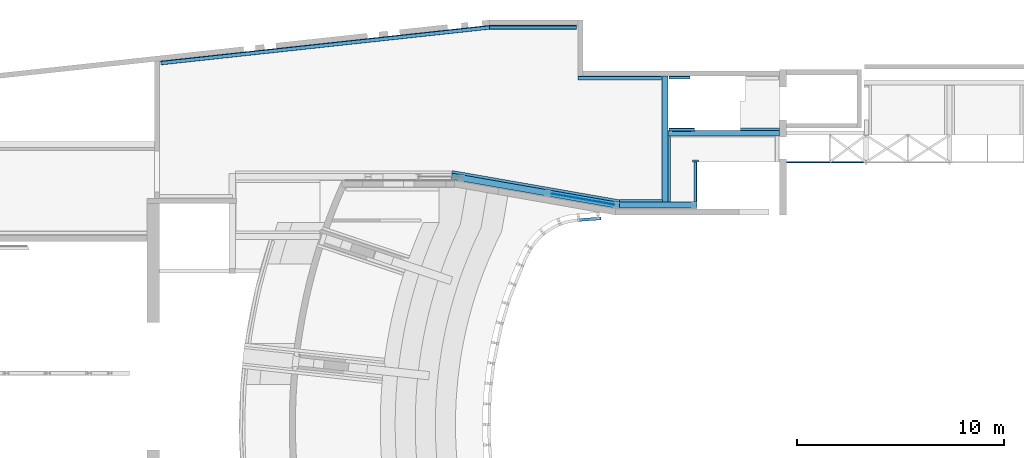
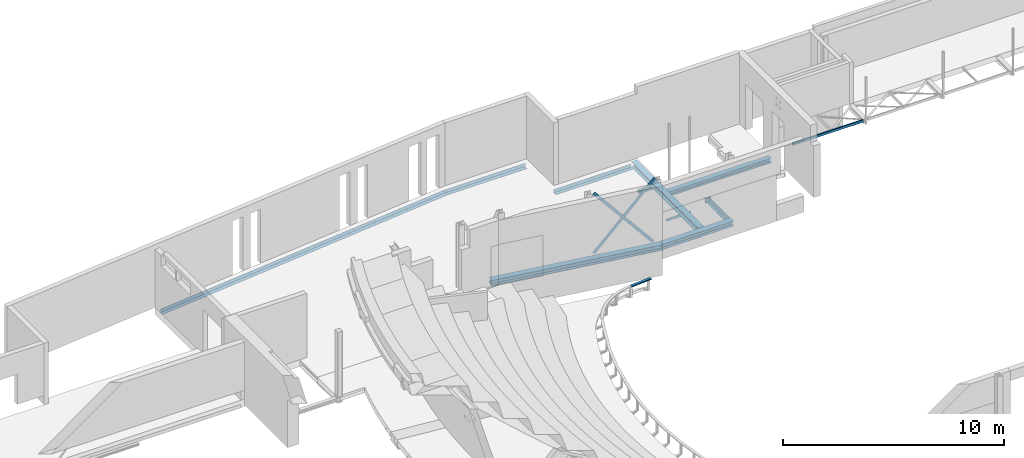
# One storey, part 27 of 68: 14 beams.
"""IFC2X3 building model written with IfcOpenShell, lengths in millimetres."""

from ifc_helpers import new_model, entity, si_unit, converted_unit, derived_unit, direction, frame, frame_2d, origin, origin_2d_with_axis, place, context, subcontext, project, spatial, polyline, circle_curve, parameter, trimmed, segment, composite_curve, rectangle, i_section, outline, extrude, source, transform, mapped, material, material_list, type_object, type_shapes, element, save


model = new_model("IFC2X3")

# Units and contexts
model_context = context("Model", 3, precision=0.01, world=origin(), true_north=direction((6.12303176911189e-17, 1.0)))
body_context = subcontext(model_context, "Body", "Model", "MODEL_VIEW")
ifc_project = project(units=[si_unit("LENGTHUNIT", "METRE", prefix="MILLI"), si_unit("AREAUNIT", "SQUARE_METRE", prefix="MILLI"), si_unit("VOLUMEUNIT", "CUBIC_METRE"), converted_unit("PLANEANGLEUNIT", "DEGREE", entity("IfcRatioMeasure", 0.0174532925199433), si_unit("PLANEANGLEUNIT", "RADIAN"), dimensions=[0, 0, 0, 0, 0, 0, 0]), si_unit("MASSUNIT", "GRAM", prefix="KILO"), derived_unit("MASSDENSITYUNIT", [(si_unit("MASSUNIT", "GRAM", prefix="KILO"), 1), (si_unit("LENGTHUNIT", "METRE"), -3)]), derived_unit("MOMENTOFINERTIAUNIT", [(si_unit("LENGTHUNIT", "METRE"), 4)]), si_unit("TIMEUNIT", "SECOND"), si_unit("FREQUENCYUNIT", "HERTZ"), si_unit("THERMODYNAMICTEMPERATUREUNIT", "DEGREE_CELSIUS"), derived_unit("THERMALTRANSMITTANCEUNIT", [(si_unit("MASSUNIT", "GRAM", prefix="KILO"), 1), (si_unit("THERMODYNAMICTEMPERATUREUNIT", "KELVIN"), -1), (si_unit("TIMEUNIT", "SECOND"), -3)]), derived_unit("VOLUMETRICFLOWRATEUNIT", [(si_unit("LENGTHUNIT", "METRE"), 3), (si_unit("TIMEUNIT", "SECOND"), -1)]), si_unit("ELECTRICCURRENTUNIT", "AMPERE"), si_unit("ELECTRICVOLTAGEUNIT", "VOLT"), si_unit("POWERUNIT", "WATT"), si_unit("FORCEUNIT", "NEWTON", prefix="KILO"), si_unit("ILLUMINANCEUNIT", "LUX"), si_unit("LUMINOUSFLUXUNIT", "LUMEN"), si_unit("LUMINOUSINTENSITYUNIT", "CANDELA"), derived_unit("USERDEFINED", [(si_unit("MASSUNIT", "GRAM", prefix="KILO"), -1), (si_unit("LENGTHUNIT", "METRE"), -2), (si_unit("TIMEUNIT", "SECOND"), 3), (si_unit("LUMINOUSFLUXUNIT", "LUMEN"), 1)]), derived_unit("LINEARVELOCITYUNIT", [(si_unit("LENGTHUNIT", "METRE"), 1), (si_unit("TIMEUNIT", "SECOND"), -1)]), si_unit("PRESSUREUNIT", "PASCAL"), derived_unit("USERDEFINED", [(si_unit("LENGTHUNIT", "METRE"), -2), (si_unit("MASSUNIT", "GRAM", prefix="KILO"), 1), (si_unit("TIMEUNIT", "SECOND"), -2)]), derived_unit("LINEARFORCEUNIT", [(si_unit("MASSUNIT", "GRAM", prefix="KILO"), 1), (si_unit("LENGTHUNIT", "METRE"), 1), (si_unit("TIMEUNIT", "SECOND"), -2), (si_unit("LENGTHUNIT", "METRE"), -1)]), derived_unit("PLANARFORCEUNIT", [(si_unit("MASSUNIT", "GRAM", prefix="KILO"), 1), (si_unit("LENGTHUNIT", "METRE"), 1), (si_unit("TIMEUNIT", "SECOND"), -2), (si_unit("LENGTHUNIT", "METRE"), -2)])], contexts=[model_context])

# Site, building, storey
site_placement = place(None, origin())
site = spatial("IfcSite", under=ifc_project, at=site_placement, Name="Theater aan de Parade", CompositionType="ELEMENT")
building_placement = place(site_placement, origin())
building = spatial("IfcBuilding", under=site, at=building_placement, Name="Theater aan de Parade", CompositionType="ELEMENT")
storey_placement = place(building_placement, frame((0.0, 0.0, 8750.0)))
storey = spatial("IfcBuildingStorey", under=building, at=storey_placement, Name="02 tweede verdieping", CompositionType="ELEMENT", Elevation=8750.0)

# Beams
ifc_material_1 = material(Name="00_PBT_MAT_staal_S355")
ifc_material_2 = material(Name="00_PBT_MAT_Lucht")
ifc_material_list_1 = material_list([ifc_material_1, ifc_material_2])
beam_type_1 = type_object("IfcBeamType", Name="28_PBT_SF_staal_H-profiel_met_ondergelaste_strip (void):S355_HE300B + ondergelaste strip d=15", PredefinedType="BEAM", material=ifc_material_list_1)
shared_shape_1 = source(origin(), body_context, "Body", "SweptSolid", [
    extrude(rectangle(XDim=15.0, YDim=420.0, at=origin_2d_with_axis()), frame((-4112.59046725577, 65.0, -157.500000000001), z_axis=(1.0, 0.0, 0.0), x_axis=(0.0, 0.0, -1.0)), (0.0, 0.0, 1.0), 8225.18093451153),
    extrude(outline(composite_curve([segment(polyline([(131.0, -150.0), (150.0, -150.0)]), True, "CONTINUOUS"), segment(polyline([(150.0, -150.0), (150.0, 150.0)]), True, "CONTINUOUS"), segment(polyline([(150.0, 150.0), (131.0, 150.0)]), True, "CONTINUOUS"), segment(polyline([(131.0, 150.0), (131.0, 32.5)]), True, "CONTINUOUS"), segment(trimmed(circle_curve(frame_2d((104.0, 32.5), x_axis=(1.0, 0.0)), 27.0000000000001), [parameter(270.0)], [parameter(0.0)], True, "PARAMETER"), False, "CONTINUOUS"), segment(polyline([(104.0, 5.49999999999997), (-104.0, 5.49999999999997)]), True, "CONTINUOUS"), segment(trimmed(circle_curve(frame_2d((-104.0, 32.5), x_axis=(0.0, -1.0)), 27.0), [parameter(270.0)], [parameter(0.0)], True, "PARAMETER"), False, "CONTINUOUS"), segment(polyline([(-131.0, 32.5), (-131.0, 150.0)]), True, "CONTINUOUS"), segment(polyline([(-131.0, 150.0), (-150.0, 150.0)]), True, "CONTINUOUS"), segment(polyline([(-150.0, 150.0), (-150.0, -150.0)]), True, "CONTINUOUS"), segment(polyline([(-150.0, -150.0), (-131.0, -150.0)]), True, "CONTINUOUS"), segment(polyline([(-131.0, -150.0), (-131.0, -32.5)]), True, "CONTINUOUS"), segment(trimmed(circle_curve(frame_2d((-104.0, -32.5), x_axis=(-1.0, 0.0)), 27.0), [parameter(269.999999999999)], [parameter(0.0)], True, "PARAMETER"), False, "CONTINUOUS"), segment(polyline([(-104.0, -5.50000000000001), (104.0, -5.50000000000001)]), True, "CONTINUOUS"), segment(trimmed(circle_curve(frame_2d((104.0, -32.5), x_axis=(0.0, 1.0)), 27.0), [parameter(270.0)], [parameter(0.0)], True, "PARAMETER"), False, "CONTINUOUS"), segment(polyline([(131.0, -32.5), (131.0, -150.0)]), True, "CONTINUOUS")], self_intersect=False)), frame((-4113.59046725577, 0.0, 0.0), z_axis=(1.0, 0.0, 0.0), x_axis=(0.0, 0.0, -1.0)), (0.0, 0.0, 1.0), 8227.18093451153),
])
type_shapes(beam_type_1, [shared_shape_1])
beam_1_placement = place(storey_placement, frame((55596.7451545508, 43715.1901551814, -315.0), z_axis=(0.0, 0.0, 1.0), x_axis=(0.985030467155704, -0.172380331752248, 0.0)))
element("IfcBeam", 1, at=beam_1_placement, inside=storey, type_object=beam_type_1, material=ifc_material_1, Name="28_PBT_SF_staal_H-profiel_met_ondergelaste_strip (void):S355_HE300B + ondergelaste strip d=15", ObjectType="28_PBT_SF_staal_H-profiel_met_ondergelaste_strip (void):S355_HE300B + ondergelaste strip d=15", context=body_context, shape_type="MappedRepresentation", body=[
    mapped(shared_shape_1, transform((0.0, 0.0, 0.0), scale=1.0)),
])
beam_type_2 = type_object("IfcBeamType", Name="28_PBT_SF_staal_L-profiel:S355_L150x150x15", PredefinedType="NOTDEFINED")
beam_2_placement = place(storey_placement, frame((62023.8822563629, 46634.3631171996, 0.0)))
element("IfcBeam", 2, at=beam_2_placement, inside=storey, type_object=beam_type_2, material=ifc_material_1, Name="28_PBT_SF_staal_L-profiel:S355_L150x150x15", ObjectType="28_PBT_SF_staal_L-profiel:S355_L150x150x15", context=body_context, shape_type="SweptSolid", body=[
    extrude(outline(composite_curve([segment(polyline([(-93.3333333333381, -56.6666666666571), (56.6666666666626, -56.6666666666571)]), True, "CONTINUOUS"), segment(polyline([(56.6666666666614, -56.6666666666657), (56.6666666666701, 93.3333333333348)]), True, "CONTINUOUS"), segment(polyline([(56.6666666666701, 93.3333333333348), (49.6666666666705, 93.3333333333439)]), True, "CONTINUOUS"), segment(trimmed(circle_curve(frame_2d((49.6666666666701, 85.3333333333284), x_axis=(0.0, 1.0)), 7.99999999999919), [parameter(0.0)], [parameter(90.0000000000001)], True, "PARAMETER"), True, "CONTINUOUS"), segment(polyline([(41.6666666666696, 85.3333333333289), (41.6666666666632, -25.6666666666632)]), True, "CONTINUOUS"), segment(trimmed(circle_curve(frame_2d((25.6666666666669, -25.666666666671), x_axis=(1.0, 0.0)), 15.9999999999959), [parameter(269.999999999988)], [parameter(0.0)], True, "PARAMETER"), False, "CONTINUOUS"), segment(polyline([(25.6666666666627, -41.6666666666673), (-85.3333333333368, -41.6666666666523)]), True, "CONTINUOUS"), segment(trimmed(circle_curve(frame_2d((-85.3333333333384, -49.6666666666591), x_axis=(0.0, 1.0)), 7.99999999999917), [parameter(0.0)], [parameter(90.0000000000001)], True, "PARAMETER"), True, "CONTINUOUS"), segment(polyline([(-93.3333333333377, -49.6666666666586), (-93.3333333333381, -56.6666666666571)]), True, "CONTINUOUS")], self_intersect=False)), frame((0.0, 14.1666666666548, -1919.33333333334), z_axis=(1.0, 0.0, 0.0), x_axis=(0.0, 0.0, -1.0)), (0.0, 0.0, 1.0), 1239.98964556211),
])
beam_3_placement = place(storey_placement, frame((62023.8822563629, 49219.4979908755, 0.0)))
element("IfcBeam", 3, at=beam_3_placement, inside=storey, type_object=beam_type_2, material=ifc_material_1, Name="28_PBT_SF_staal_L-profiel:S355_L150x150x15", ObjectType="28_PBT_SF_staal_L-profiel:S355_L150x150x15", context=body_context, shape_type="SweptSolid", body=[
    extrude(outline(composite_curve([segment(polyline([(49.6666666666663, -93.3333333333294), (56.6666666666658, -93.3333333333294)]), True, "CONTINUOUS"), segment(polyline([(56.6666666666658, -93.3333333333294), (56.6666666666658, 56.6666666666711)]), True, "CONTINUOUS"), segment(polyline([(56.666666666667, 56.6666666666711), (-93.3333333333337, 56.6666666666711)]), True, "CONTINUOUS"), segment(polyline([(-93.3333333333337, 56.6666666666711), (-93.3333333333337, 49.6666666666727)]), True, "CONTINUOUS"), segment(trimmed(circle_curve(frame_2d((-85.3333333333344, 49.6666666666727), x_axis=(-1.0, 0.0)), 7.99999999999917), [parameter(0.0)], [parameter(90.0000000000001)], True, "PARAMETER"), True, "CONTINUOUS"), segment(polyline([(-85.3333333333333, 41.6666666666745), (25.6666666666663, 41.6666666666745)]), True, "CONTINUOUS"), segment(trimmed(circle_curve(frame_2d((25.6666666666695, 25.6666666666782), x_axis=(0.0, 1.0)), 15.9999999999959), [parameter(269.999999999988)], [parameter(0.0)], True, "PARAMETER"), False, "CONTINUOUS"), segment(polyline([(41.6666666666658, 25.6666666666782), (41.6666666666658, -85.3333333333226)]), True, "CONTINUOUS"), segment(trimmed(circle_curve(frame_2d((49.6666666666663, -85.3333333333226), x_axis=(-1.0, 0.0)), 7.99999999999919), [parameter(0.0)], [parameter(90.0000000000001)], True, "PARAMETER"), True, "CONTINUOUS")], self_intersect=False)), frame((0.0, -14.1666666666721, -1919.33333333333), z_axis=(1.0, 0.0, 0.0), x_axis=(0.0, 0.0, -1.0)), (0.0, 0.0, 1.0), 1019.99734582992),
])
ifc_material_list_2 = material_list([ifc_material_1, ifc_material_2])
beam_type_3 = type_object("IfcBeamType", Name="28_PBT_SF_staal_H-profiel_met_ondergelaste_strip (void):S355_HE300B + ondergelaste strip d=12", PredefinedType="BEAM", material=ifc_material_list_2)
shared_shape_2 = source(origin(), body_context, "Body", "SweptSolid", [
    extrude(i_section(OverallWidth=300.000000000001, OverallDepth=300.0, WebThickness=10.9999999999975, FlangeThickness=19.0, FilletRadius=27.0000000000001, at=frame_2d((8.65441052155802e-12, -5.40012479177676e-13), x_axis=(1.0, 0.0))), frame((61833.8822563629, 49261.9979908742, 8435.0), z_axis=(0.0, -1.0, 0.0), x_axis=(-1.0, 0.0, 0.0)), (0.0, 0.0, 1.0), 6076.9979908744),
    extrude(rectangle(XDim=11.9999999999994, YDim=420.0, at=frame_2d((-4.33431068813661e-12, 5.41344746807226e-13), x_axis=(0.0, 1.0))), frame((61898.8822563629, 46336.9979908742, 8279.0), z_axis=(0.0, -1.0, 0.0), x_axis=(-1.0, 0.0, 0.0)), (0.0, 0.0, 1.0), 3150.9979908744),
])
type_shapes(beam_type_3, [shared_shape_2])
beam_4_placement = place(storey_placement, frame((0.0, 0.0, -8750.0)))
element("IfcBeam", 4, at=beam_4_placement, inside=storey, type_object=beam_type_3, material=ifc_material_1, Name="28_PBT_SF_staal_H-profiel_met_ondergelaste_strip (void):S355_HE300B + ondergelaste strip d=12", ObjectType="28_PBT_SF_staal_H-profiel_met_ondergelaste_strip (void):S355_HE300B + ondergelaste strip d=12", context=body_context, shape_type="MappedRepresentation", body=[
    mapped(shared_shape_2, transform((0.0, 0.0, 0.0), scale=1.0)),
])
ifc_material_list_3 = material_list([ifc_material_1, ifc_material_2])
beam_type_4 = type_object("IfcBeamType", Name="28_PBT_SF_staal_H-profiel_met_ondergelaste_strip (void):S355_HE260A + ondergelaste strip d=12", PredefinedType="BEAM", material=ifc_material_list_3)
shared_shape_3 = source(origin(), body_context, "Body", "SweptSolid", [
    extrude(outline(composite_curve([segment(polyline([(112.50000000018, -130.0), (125.0, -130.0)]), True, "CONTINUOUS"), segment(polyline([(125.0, -130.0), (125.0, 130.0)]), True, "CONTINUOUS"), segment(polyline([(125.0, 130.0), (112.499999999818, 130.0)]), True, "CONTINUOUS"), segment(polyline([(112.499999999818, 130.0), (112.49999999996, 27.7500000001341)]), True, "CONTINUOUS"), segment(trimmed(circle_curve(frame_2d((88.4999999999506, 27.7500000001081), x_axis=(1.0, 0.0)), 24.0000000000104), [parameter(270.000000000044)], [parameter(0.0)], True, "PARAMETER"), False, "CONTINUOUS"), segment(polyline([(88.499999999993, 3.75000000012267), (-88.500000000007, 3.7499999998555)]), True, "CONTINUOUS"), segment(trimmed(circle_curve(frame_2d((-88.5000000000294, 27.7499999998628), x_axis=(0.0, -1.0)), 24.00000000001), [parameter(270.000000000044)], [parameter(0.0)], True, "PARAMETER"), False, "CONTINUOUS"), segment(polyline([(-112.50000000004, 27.7499999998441), (-112.500000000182, 130.0)]), True, "CONTINUOUS"), segment(polyline([(-112.500000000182, 130.0), (-125.0, 130.0)]), True, "CONTINUOUS"), segment(polyline([(-125.0, 130.0), (-125.0, -130.0)]), True, "CONTINUOUS"), segment(polyline([(-125.0, -130.0), (-112.49999999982, -130.0)]), True, "CONTINUOUS"), segment(polyline([(-112.49999999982, -130.0), (-112.499999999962, -27.7500000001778)]), True, "CONTINUOUS"), segment(trimmed(circle_curve(frame_2d((-88.4999999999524, -27.7500000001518), x_axis=(-1.0, 0.0)), 24.0000000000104), [parameter(270.000000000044)], [parameter(0.0)], True, "PARAMETER"), False, "CONTINUOUS"), segment(polyline([(-88.4999999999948, -3.75000000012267), (88.5000000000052, -3.74999999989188)]), True, "CONTINUOUS"), segment(trimmed(circle_curve(frame_2d((88.5000000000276, -27.7499999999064), x_axis=(0.0, 1.0)), 24.00000000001), [parameter(270.000000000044)], [parameter(0.0)], True, "PARAMETER"), False, "CONTINUOUS"), segment(polyline([(112.500000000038, -27.7499999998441), (112.50000000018, -130.0)]), True, "CONTINUOUS")], self_intersect=False)), frame((61983.8822563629, 46496.8631171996, 8415.0), z_axis=(1.0, 0.0, 0.0), x_axis=(0.0, 0.0, -1.0)), (0.0, 0.0, 1.0), 5372.37384459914),
    extrude(rectangle(XDim=12.0000000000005, YDim=380.0, at=frame_2d((-1.08268949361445e-12, -8.65441052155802e-12), x_axis=(1.0, 0.0))), frame((65486.8822563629, 46561.8631171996, 8284.0), z_axis=(1.0, 0.0, 0.0), x_axis=(0.0, 0.0, -1.0)), (0.0, 0.0, 1.0), 1868.37384459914),
])
type_shapes(beam_type_4, [shared_shape_3])
beam_5_placement = place(storey_placement, frame((0.0, 0.0, -8750.0)))
element("IfcBeam", 5, at=beam_5_placement, inside=storey, type_object=beam_type_4, material=ifc_material_1, Name="28_PBT_SF_staal_H-profiel_met_ondergelaste_strip (void):S355_HE260A + ondergelaste strip d=12", ObjectType="28_PBT_SF_staal_H-profiel_met_ondergelaste_strip (void):S355_HE260A + ondergelaste strip d=12", context=body_context, shape_type="MappedRepresentation", body=[
    mapped(shared_shape_3, transform((0.0, 0.0, 0.0), scale=1.0)),
])
ifc_material_list_4 = material_list([ifc_material_1, ifc_material_2])
beam_type_5 = type_object("IfcBeamType", Name="28_PBT_SF_staal_H-profiel_met_ondergelaste_strip (void):S355_HE300A + ondergelaste strip d=12", PredefinedType="BEAM", material=ifc_material_list_4)
shared_shape_4 = source(origin(), body_context, "Body", "SweptSolid", [
    extrude(rectangle(XDim=10.0, YDim=420.0, at=origin_2d_with_axis()), frame((-1862.88408459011, 65.0, -150.0), z_axis=(1.0, 0.0, 0.0), x_axis=(0.0, 0.0, -1.0)), (0.0, 0.0, 1.0), 2050.76816918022),
    extrude(outline(composite_curve([segment(polyline([(131.0, -150.0), (145.0, -150.0)]), True, "CONTINUOUS"), segment(polyline([(145.0, -150.0), (145.0, 150.0)]), True, "CONTINUOUS"), segment(polyline([(145.0, 150.0), (131.0, 150.0)]), True, "CONTINUOUS"), segment(polyline([(131.0, 150.0), (131.0, 31.25)]), True, "CONTINUOUS"), segment(trimmed(circle_curve(frame_2d((104.0, 31.25), x_axis=(1.0, 0.0)), 27.0), [parameter(270.0)], [parameter(0.0)], True, "PARAMETER"), False, "CONTINUOUS"), segment(polyline([(104.0, 4.24999999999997), (-104.0, 4.24999999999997)]), True, "CONTINUOUS"), segment(trimmed(circle_curve(frame_2d((-104.0, 31.25), x_axis=(0.0, -1.0)), 27.0000000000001), [parameter(270.0)], [parameter(0.0)], True, "PARAMETER"), False, "CONTINUOUS"), segment(polyline([(-131.0, 31.25), (-131.0, 150.0)]), True, "CONTINUOUS"), segment(polyline([(-131.0, 150.0), (-145.0, 150.0)]), True, "CONTINUOUS"), segment(polyline([(-145.0, 150.0), (-145.0, -150.0)]), True, "CONTINUOUS"), segment(polyline([(-145.0, -150.0), (-131.0, -150.0)]), True, "CONTINUOUS"), segment(polyline([(-131.0, -150.0), (-131.0, -31.25)]), True, "CONTINUOUS"), segment(trimmed(circle_curve(frame_2d((-104.0, -31.25), x_axis=(-1.0, 0.0)), 27.0), [parameter(270.0)], [parameter(0.0)], True, "PARAMETER"), False, "CONTINUOUS"), segment(polyline([(-104.0, -4.25000000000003), (104.0, -4.25000000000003)]), True, "CONTINUOUS"), segment(trimmed(circle_curve(frame_2d((104.0, -31.25), x_axis=(0.0, 1.0)), 27.0), [parameter(270.0)], [parameter(0.0)], True, "PARAMETER"), False, "CONTINUOUS"), segment(polyline([(131.0, -31.25), (131.0, -150.0)]), True, "CONTINUOUS")], self_intersect=False)), frame((-1863.88408459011, 0.0, 0.0), z_axis=(1.0, 0.0, 0.0), x_axis=(0.0, 0.0, -1.0)), (0.0, 0.0, 1.0), 3727.76816918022),
])
type_shapes(beam_type_5, [shared_shape_4])
beam_6_placement = place(storey_placement, frame((61517.7007672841, 43035.0, -320.0)))
element("IfcBeam", 6, at=beam_6_placement, inside=storey, type_object=beam_type_5, material=ifc_material_1, Name="28_PBT_SF_staal_H-profiel_met_ondergelaste_strip (void):S355_HE300A + ondergelaste strip d=12", ObjectType="28_PBT_SF_staal_H-profiel_met_ondergelaste_strip (void):S355_HE300A + ondergelaste strip d=12", context=body_context, shape_type="MappedRepresentation", body=[
    mapped(shared_shape_4, transform((0.0, 0.0, 0.0), scale=1.0)),
])
beam_type_6 = type_object("IfcBeamType", Name="28_PBT_SF_staal_UNP-profiel:S355_UNP140", PredefinedType="NOTDEFINED")
beam_7_placement = place(storey_placement, frame((57653.8236763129, 42308.3567144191, 0.0), z_axis=(0.0, 0.0, 1.0), x_axis=(0.997491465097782, 0.0707868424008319, 0.0)))
element("IfcBeam", 7, at=beam_7_placement, inside=storey, type_object=beam_type_6, material=ifc_material_1, Name="28_PBT_SF_staal_UNP-profiel:S355_UNP140", ObjectType="28_PBT_SF_staal_UNP-profiel:S355_UNP140", context=body_context, shape_type="SweptSolid", body=[
    extrude(outline(composite_curve([segment(polyline([(-33.100212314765, -70.0), (26.8997876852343, -70.0)]), True, "CONTINUOUS"), segment(polyline([(26.8997876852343, -70.0), (26.8997876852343, -67.0159744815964)]), True, "CONTINUOUS"), segment(trimmed(circle_curve(frame_2d((21.8997876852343, -67.0159744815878), x_axis=(1.0, 0.0)), 5.0), [parameter(0.0)], [parameter(85.4260787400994)], True, "PARAMETER"), True, "CONTINUOUS"), segment(polyline([(22.2985137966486, -62.0318980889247), (-16.8976645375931, -58.8962038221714)]), True, "CONTINUOUS"), segment(trimmed(circle_curve(frame_2d((-16.1002123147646, -48.9280510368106), x_axis=(1.0, 0.0)), 10.0), [parameter(180.0)], [parameter(265.426078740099)], True, "PARAMETER"), False, "CONTINUOUS"), segment(polyline([(-26.1002123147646, -48.9280510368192), (-26.1002123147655, 48.9280510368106)]), True, "CONTINUOUS"), segment(trimmed(circle_curve(frame_2d((-16.1002123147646, 48.9280510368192), x_axis=(1.0, 0.0)), 10.0), [parameter(94.5739212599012)], [parameter(180.0)], True, "PARAMETER"), False, "CONTINUOUS"), segment(polyline([(-16.8976645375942, 58.8962038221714), (22.2985137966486, 62.0318980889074)]), True, "CONTINUOUS"), segment(trimmed(circle_curve(frame_2d((21.8997876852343, 67.0159744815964), x_axis=(1.0, 0.0)), 5.0), [parameter(274.573921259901)], [parameter(360.0)], True, "PARAMETER"), True, "CONTINUOUS"), segment(polyline([(26.8997876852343, 67.0159744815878), (26.8997876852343, 70.0)]), True, "CONTINUOUS"), segment(polyline([(26.8997876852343, 70.0), (-33.100212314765, 70.0)]), True, "CONTINUOUS"), segment(polyline([(-33.100212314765, 70.0), (-33.100212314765, -70.0)]), True, "CONTINUOUS")], self_intersect=False)), frame((0.0, 0.0, -1431.10021231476), z_axis=(1.0, 0.0, 0.0), x_axis=(0.0, 0.0, -1.0)), (0.0, 0.0, 1.0), 1095.56309917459),
])
beam_type_7 = type_object("IfcBeamType", Name="28_PBT_SF_staal_koker:S355_K140x70x5", PredefinedType="NOTDEFINED")
beam_8_placement = place(storey_placement, frame((67706.2561009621, 45069.8723406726, 0.0)))
element("IfcBeam", 8, at=beam_8_placement, inside=storey, type_object=beam_type_7, material=ifc_material_1, Name="28_PBT_SF_staal_koker:S355_K140x70x5", ObjectType="28_PBT_SF_staal_koker:S355_K140x70x5", context=body_context, shape_type="SweptSolid", body=[
    extrude(outline(composite_curve([segment(polyline([(-62.0, -35.0), (62.0, -35.0)]), True, "CONTINUOUS"), segment(trimmed(circle_curve(frame_2d((62.0, -27.0), x_axis=(0.0, 1.0)), 8.0), [parameter(180.0)], [parameter(270.0)], True, "PARAMETER"), True, "CONTINUOUS"), segment(polyline([(70.0, -27.0), (70.0, 27.0)]), True, "CONTINUOUS"), segment(trimmed(circle_curve(frame_2d((62.0, 27.0), x_axis=(0.0, 1.0)), 8.0), [parameter(270.0)], [parameter(360.0)], True, "PARAMETER"), True, "CONTINUOUS"), segment(polyline([(62.0, 35.0), (-62.0, 35.0)]), True, "CONTINUOUS"), segment(trimmed(circle_curve(frame_2d((-62.0, 27.0), x_axis=(0.0, 1.0)), 8.0), [parameter(0.0)], [parameter(90.0000000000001)], True, "PARAMETER"), True, "CONTINUOUS"), segment(polyline([(-70.0, 27.0), (-70.0, -27.0)]), True, "CONTINUOUS"), segment(trimmed(circle_curve(frame_2d((-62.0, -27.0), x_axis=(0.0, 1.0)), 8.0), [parameter(90.0)], [parameter(180.0)], True, "PARAMETER"), True, "CONTINUOUS")], self_intersect=False), holes=[composite_curve([segment(polyline([(65.0, 25.0), (65.0, -25.0)]), True, "CONTINUOUS"), segment(trimmed(circle_curve(frame_2d((60.0, -25.0), x_axis=(0.0, 1.0)), 5.0), [parameter(180.0)], [parameter(270.0)], True, "PARAMETER"), False, "CONTINUOUS"), segment(polyline([(60.0, -30.0), (-60.0, -30.0)]), True, "CONTINUOUS"), segment(trimmed(circle_curve(frame_2d((-60.0, -25.0), x_axis=(0.0, 1.0)), 5.0), [parameter(90.0)], [parameter(180.0)], True, "PARAMETER"), False, "CONTINUOUS"), segment(polyline([(-65.0, -25.0), (-65.0, 25.0)]), True, "CONTINUOUS"), segment(trimmed(circle_curve(frame_2d((-60.0, 25.0), x_axis=(0.0, 1.0)), 5.0), [parameter(4.07110999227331e-13)], [parameter(90.0000000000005)], True, "PARAMETER"), False, "CONTINUOUS"), segment(polyline([(-60.0, 30.0), (60.0, 30.0)]), True, "CONTINUOUS"), segment(trimmed(circle_curve(frame_2d((60.0, 25.0), x_axis=(0.0, 1.0)), 5.0), [parameter(270.0)], [parameter(1.01777749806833e-13)], True, "PARAMETER"), False, "CONTINUOUS")], self_intersect=False)]), frame((0.0, 35.0, 1210.0), z_axis=(1.0, 0.0, 0.0), x_axis=(0.0, 0.0, 1.0)), (0.0, 0.0, 1.0), 3705.01464304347),
])
beam_type_8 = type_object("IfcBeamType", Name="28_PBT_SF_staal_L-profiel:S355_L200x200x20", PredefinedType="NOTDEFINED")
beam_9_placement = place(storey_placement, frame((57637.0315633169, 49205.1979908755, 0.0)))
element("IfcBeam", 9, at=beam_9_placement, inside=storey, type_object=beam_type_8, material=ifc_material_1, Name="28_PBT_SF_staal_L-profiel:S355_L200x200x20", ObjectType="28_PBT_SF_staal_L-profiel:S355_L200x200x20", context=body_context, shape_type="SweptSolid", body=[
    extrude(outline(composite_curve([segment(polyline([(64.5555555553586, -124.44444444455), (75.5555555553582, -124.44444444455)]), True, "CONTINUOUS"), segment(polyline([(75.5555555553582, -124.444444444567), (75.5555555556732, 75.5555555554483)]), True, "CONTINUOUS"), segment(polyline([(75.5555555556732, 75.5555555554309), (-124.444444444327, 75.5555555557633)]), True, "CONTINUOUS"), segment(polyline([(-124.444444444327, 75.5555555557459), (-124.444444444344, 64.5555555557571)]), True, "CONTINUOUS"), segment(trimmed(circle_curve(frame_2d((-115.444444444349, 64.5555555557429), x_axis=(-1.0, 0.0)), 8.99999999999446), [parameter(0.0)], [parameter(90.0000000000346)], True, "PARAMETER"), True, "CONTINUOUS"), segment(polyline([(-115.444444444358, 55.5555555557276), (37.5555555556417, 55.555555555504)]), True, "CONTINUOUS"), segment(trimmed(circle_curve(frame_2d((37.5555555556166, 37.5555555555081), x_axis=(0.0, 1.0)), 17.9999999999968), [parameter(269.99999999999)], [parameter(0.0)], True, "PARAMETER"), False, "CONTINUOUS"), segment(polyline([(55.5555555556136, 37.5555555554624), (55.5555555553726, -115.44444444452)]), True, "CONTINUOUS"), segment(trimmed(circle_curve(frame_2d((64.5555555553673, -115.444444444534), x_axis=(-1.0, 0.0)), 8.99999999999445), [parameter(0.0)], [parameter(90.0000000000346)], True, "PARAMETER"), True, "CONTINUOUS")], self_intersect=False)), frame((0.0, -18.7555555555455, -409.444444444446), z_axis=(1.0, 0.0, 0.0), x_axis=(0.0, 0.0, -1.0)), (0.0, 0.0, 1.0), 4026.85069304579),
])
beam_10_placement = place(storey_placement, frame((37507.9002925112, 49932.0402343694, 0.0), z_axis=(0.0, 0.0, 1.0), x_axis=(0.994164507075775, 0.107874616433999, 0.0)))
element("IfcBeam", 10, at=beam_10_placement, inside=storey, type_object=beam_type_8, material=ifc_material_1, Name="28_PBT_SF_staal_L-profiel:S355_L200x200x20", ObjectType="28_PBT_SF_staal_L-profiel:S355_L200x200x20", context=body_context, shape_type="SweptSolid", body=[
    extrude(outline(composite_curve([segment(polyline([(64.5555555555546, -124.444444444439), (75.5555555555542, -124.444444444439)]), True, "CONTINUOUS"), segment(polyline([(75.5555555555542, -124.444444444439), (75.5555555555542, 75.5555555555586)]), True, "CONTINUOUS"), segment(polyline([(75.5555555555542, 75.5555555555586), (-124.444444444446, 75.5555555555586)]), True, "CONTINUOUS"), segment(polyline([(-124.444444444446, 75.5555555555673), (-124.444444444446, 64.5555555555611)]), True, "CONTINUOUS"), segment(trimmed(circle_curve(frame_2d((-115.444444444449, 64.5555555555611), x_axis=(-1.0, 0.0)), 8.99999999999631), [parameter(0.0)], [parameter(90.0000000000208)], True, "PARAMETER"), True, "CONTINUOUS"), segment(polyline([(-115.444444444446, 55.5555555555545), (37.5555555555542, 55.5555555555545)]), True, "CONTINUOUS"), segment(trimmed(circle_curve(frame_2d((37.5555555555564, 37.5555555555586), x_axis=(0.0, 1.0)), 17.999999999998), [parameter(269.999999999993)], [parameter(0.0)], True, "PARAMETER"), False, "CONTINUOUS"), segment(polyline([(55.5555555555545, 37.5555555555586), (55.5555555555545, -115.444444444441)]), True, "CONTINUOUS"), segment(trimmed(circle_curve(frame_2d((64.5555555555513, -115.444444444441), x_axis=(-1.0, 0.0)), 8.99999999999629), [parameter(0.0)], [parameter(90.0000000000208)], True, "PARAMETER"), True, "CONTINUOUS")], self_intersect=False)), frame((0.0, -18.7555555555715, -409.444444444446), z_axis=(1.0, 0.0, 0.0), x_axis=(0.0, 0.0, -1.0)), (0.0, 0.0, 1.0), 15960.0000000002),
])
beam_11_placement = place(storey_placement, frame((53374.7658254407, 51653.719112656, 0.0)))
element("IfcBeam", 11, at=beam_11_placement, inside=storey, type_object=beam_type_8, material=ifc_material_1, Name="28_PBT_SF_staal_L-profiel:S355_L200x200x20", ObjectType="28_PBT_SF_staal_L-profiel:S355_L200x200x20", context=body_context, shape_type="SweptSolid", body=[
    extrude(outline(composite_curve([segment(polyline([(64.5555555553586, -124.44444444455), (75.5555555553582, -124.44444444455)]), True, "CONTINUOUS"), segment(polyline([(75.5555555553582, -124.444444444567), (75.5555555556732, 75.5555555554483)]), True, "CONTINUOUS"), segment(polyline([(75.5555555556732, 75.5555555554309), (-124.444444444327, 75.5555555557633)]), True, "CONTINUOUS"), segment(polyline([(-124.444444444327, 75.5555555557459), (-124.444444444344, 64.5555555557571)]), True, "CONTINUOUS"), segment(trimmed(circle_curve(frame_2d((-115.444444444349, 64.5555555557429), x_axis=(-1.0, 0.0)), 8.99999999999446), [parameter(0.0)], [parameter(90.0000000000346)], True, "PARAMETER"), True, "CONTINUOUS"), segment(polyline([(-115.444444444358, 55.5555555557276), (37.5555555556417, 55.555555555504)]), True, "CONTINUOUS"), segment(trimmed(circle_curve(frame_2d((37.5555555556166, 37.5555555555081), x_axis=(0.0, 1.0)), 17.9999999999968), [parameter(269.99999999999)], [parameter(0.0)], True, "PARAMETER"), False, "CONTINUOUS"), segment(polyline([(55.5555555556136, 37.5555555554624), (55.5555555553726, -115.44444444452)]), True, "CONTINUOUS"), segment(trimmed(circle_curve(frame_2d((64.5555555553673, -115.444444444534), x_axis=(-1.0, 0.0)), 8.99999999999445), [parameter(0.0)], [parameter(90.0000000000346)], True, "PARAMETER"), True, "CONTINUOUS")], self_intersect=False)), frame((0.0, -18.7555555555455, -409.444444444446), z_axis=(1.0, 0.0, 0.0), x_axis=(0.0, 0.0, -1.0)), (0.0, 0.0, 1.0), 4184.17791496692),
])
ifc_material_3 = material(Name="00_PBT_MAT_staal")
beam_type_9 = type_object("IfcBeamType", Name="28_PBT_SF_staal_strip:strip 10x150", PredefinedType="NOTDEFINED")
beam_12_placement = place(storey_placement, frame((56190.466697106, 43611.2888852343, -244.203356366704), z_axis=(0.769515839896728, 0.0927504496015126, -0.631856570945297), x_axis=(0.638627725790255, -0.111759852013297, 0.76135692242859)))
element("IfcBeam", 12, at=beam_12_placement, inside=storey, type_object=beam_type_9, material=ifc_material_3, Name="28_PBT_SF_staal_strip:strip 10x150", ObjectType="28_PBT_SF_staal_strip:strip 10x150", context=body_context, shape_type="SweptSolid", body=[
    extrude(rectangle(XDim=150.000000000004, YDim=9.99999999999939, at=frame_2d((-4.2668091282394e-12, -5.6843418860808e-13), x_axis=(0.0, 1.0))), frame((397.603192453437, 0.0, 0.0), z_axis=(1.0, 0.0, 0.0), x_axis=(0.0, -0.974586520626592, 0.22401141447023)), (0.0, 0.0, 1.0), 4514.96724130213),
])
beam_13_placement = place(storey_placement, frame((56187.9122004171, 43611.7359221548, 3681.99320929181), z_axis=(0.769794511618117, 0.092619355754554, 0.631536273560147), x_axis=(0.638291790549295, -0.11170106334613, -0.761647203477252)))
element("IfcBeam", 13, at=beam_13_placement, inside=storey, type_object=beam_type_9, material=ifc_material_3, Name="28_PBT_SF_staal_strip:strip 10x150", ObjectType="28_PBT_SF_staal_strip:strip 10x150", context=body_context, shape_type="SweptSolid", body=[
    extrude(rectangle(XDim=149.999999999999, YDim=9.99999999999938, at=frame_2d((1.27187149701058e-12, 4.2659209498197e-12), x_axis=(1.0, 0.0))), frame((397.603192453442, 0.0, 0.0), z_axis=(1.0, 0.0, 0.0), x_axis=(0.0, -0.223930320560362, 0.97460515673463)), (0.0, 0.0, 1.0), 4419.43552327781),
])
ifc_material_list_5 = material_list([ifc_material_3, ifc_material_3])
ifc_material_list_6 = material_list([ifc_material_3, ifc_material_3])
beam_type_10 = type_object("IfcBeamType", Name="28_PBT_SF_raveelijzer:L-staal h=200", PredefinedType="BEAM", material=ifc_material_list_6)
shared_shape_5 = source(origin(), body_context, "Body", "SweptSolid", [
    extrude(outline(polyline([(-102.857142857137, -62.8571428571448), (-102.857142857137, -77.8571428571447), (47.1428571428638, -77.8571428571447), (47.1428571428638, -62.8571428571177), (47.1428571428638, 172.142857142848), (32.1428571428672, 172.142857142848), (32.1428571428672, -62.8571428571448), (-102.857142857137, -62.8571428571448)])), frame((63334.11640285, 43182.5638256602, 8352.85714285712), z_axis=(0.0, -1.0, 0.0), x_axis=(1.0, 0.0, 0.0)), (0.0, 0.0, -1.0), 1924.99999999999),
    extrude(outline(polyline([(-151.071428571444, -21.4285714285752), (-151.071428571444, -31.4285714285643), (56.4285714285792, -31.4285714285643), (66.4285714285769, -31.4285714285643), (66.4285714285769, 68.571428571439), (56.428571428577, 68.571428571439), (56.428571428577, -21.4285714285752), (-151.071428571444, -21.4285714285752)])), frame((63166.2591599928, 45138.9923970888, 8433.57142857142), z_axis=(-1.0, 0.0, 0.0), x_axis=(0.0, 0.0, 1.0)), (0.0, 0.0, -1.0), 300.00000000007),
])
type_shapes(beam_type_10, [shared_shape_5])
beam_14_placement = place(storey_placement, frame((0.0, 0.0, -8750.0)))
element("IfcBeam", 14, at=beam_14_placement, inside=storey, type_object=beam_type_10, material=ifc_material_list_5, Name="28_PBT_SF_raveelijzer:L-staal h=200", ObjectType="28_PBT_SF_raveelijzer:L-staal h=200", context=body_context, shape_type="MappedRepresentation", body=[
    mapped(shared_shape_5, transform((0.0, 0.0, 0.0), scale=1.0)),
])

save(model, "model.ifc")
